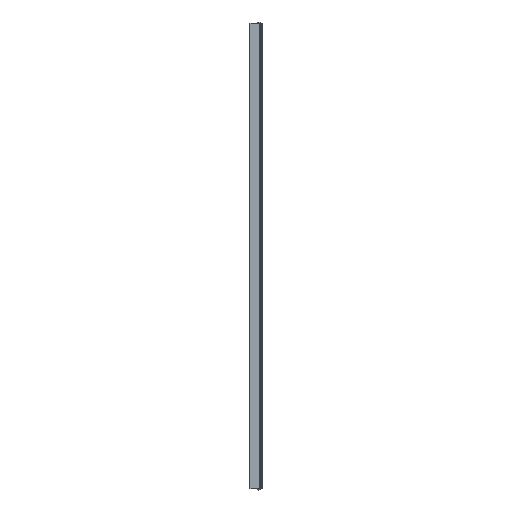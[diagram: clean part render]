
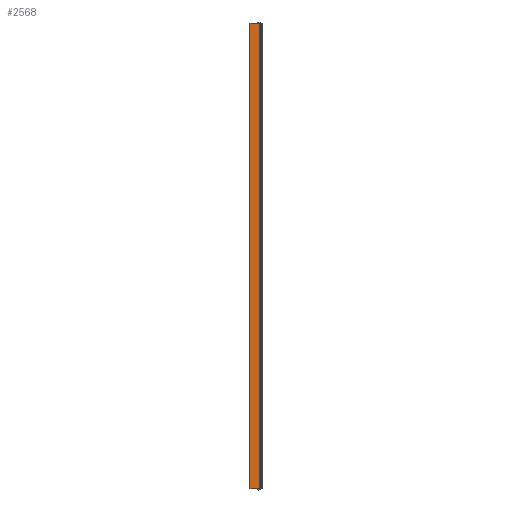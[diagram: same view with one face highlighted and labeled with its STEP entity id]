
A CAD part, left-side view. The second image highlights one B-rep face of the part: STEP entity #2568.
In plain terms, the highlighted planar face has unit normal (-1, 0, 0).
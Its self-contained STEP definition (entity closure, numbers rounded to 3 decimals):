
#5=DIRECTION('',(0.,-1.,0.));
#6=VECTOR('',#5,20.8);
#7=CARTESIAN_POINT('',(-14.,16.5,-501.));
#8=LINE('',#7,#6);
#276=DIRECTION('',(0.,1.,0.));
#277=VECTOR('',#276,20.8);
#278=CARTESIAN_POINT('',(-14.,-4.3,501.));
#279=LINE('',#278,#277);
#949=DIRECTION('',(0.,0.,-1.));
#950=VECTOR('',#949,1002.);
#951=CARTESIAN_POINT('',(-14.,-4.3,501.));
#952=LINE('',#951,#950);
#953=DIRECTION('',(0.,0.,-1.));
#954=VECTOR('',#953,1002.);
#955=CARTESIAN_POINT('',(-14.,16.5,501.));
#956=LINE('',#955,#954);
#973=CARTESIAN_POINT('',(-14.,16.5,-501.));
#974=VERTEX_POINT('',#973);
#975=CARTESIAN_POINT('',(-14.,-4.3,
-501.));
#976=VERTEX_POINT('',#975);
#1181=CARTESIAN_POINT('',(-14.,-4.3,501.));
#1182=VERTEX_POINT('',#1181);
#1183=CARTESIAN_POINT('',(-14.,16.5,501.));
#1184=VERTEX_POINT('',#1183);
#2556=CARTESIAN_POINT('',(-14.,16.5,-499.5));
#2557=DIRECTION('',(-1.,0.,0.));
#2558=DIRECTION('',(0.,-1.,0.));
#2559=AXIS2_PLACEMENT_3D('',#2556,#2557,#2558);
#2560=PLANE('',#2559);
#2561=ORIENTED_EDGE('',*,*,#1508,.F.);
#2562=ORIENTED_EDGE('',*,*,#2550,.T.);
#2563=ORIENTED_EDGE('',*,*,#1269,.F.);
#2565=ORIENTED_EDGE('',*,*,#2564,.F.);
#2566=EDGE_LOOP('',(#2561,#2562,#2563,#2565));
#2567=FACE_OUTER_BOUND('',#2566,.F.);
#1269=EDGE_CURVE('',#974,#976,#8,.T.);
#1508=EDGE_CURVE('',#1182,#1184,#279,.T.);
#2550=EDGE_CURVE('',#1182,#976,#952,.T.);
#2564=EDGE_CURVE('',#1184,#974,#956,.T.);
#2568=ADVANCED_FACE('',(#2567),#2560,.T.);
